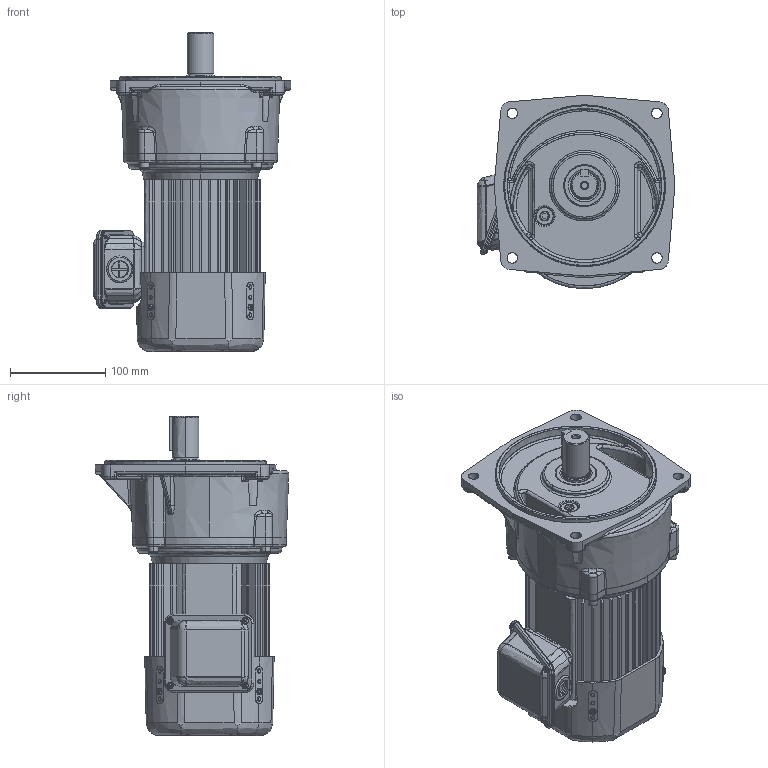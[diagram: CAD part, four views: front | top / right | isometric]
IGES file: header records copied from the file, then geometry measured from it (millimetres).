
Start section: SolidWorks IGES file using analytic representation for surfaces
Global section: file name: \\100.100.100.8\1_共有作業フォルダ\1-5_３Ｄデータ\solidworks\personal-folder\H.Nagayama\SGP1外形\P1(3D)\igs\TMF2-04-(30~80).IGS; native system: SolidWorks 2018; preprocessor: SolidWorks 2018; author: sigma-giken; date: 200508.141648; units: millimetre
Bounding box: 208 x 203.34 x 335.5 mm (x, y, z)
Surface area: 484596.6 mm2 (no closed solid volume)
Topology: 0 solids, 0 shells, 1780 faces, 22718 edges, 22689 vertices
Faces by surface type: bspline 979, revolution 801
